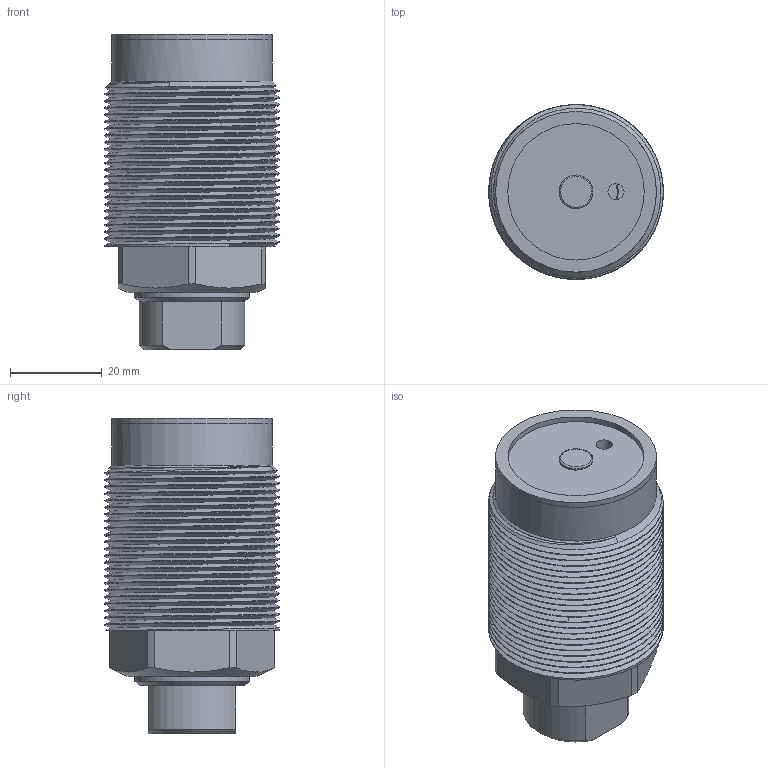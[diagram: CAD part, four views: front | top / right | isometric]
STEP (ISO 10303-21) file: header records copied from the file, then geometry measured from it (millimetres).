
FILE_DESCRIPTION(/* description */ (''),/* implementation_level */ '2;1');
FILE_NAME(/* name */ 'CTC-25B.stp',/* time_stamp */ '2022-04-28T11:08:04+08:00',/* author */ (''),/* organization */ (''),/* preprocessor_version */ 'ST-DEVELOPER v16.7',/* originating_system */ 'SIEMENS PLM Software NX 12.0',/* authorisation */ '');
FILE_SCHEMA (('AUTOMOTIVE_DESIGN { 1 0 10303 214 3 1 1 1 }'));
Length unit declared in the file: millimetre
Products named in the file (1): CTC-25B
Bounding box: 38 x 38 x 68.75 mm (x, y, z)
Volume: 57236.3 mm3; surface area: 34790.7 mm2
Topology: 8 solids, 8 shells, 304 faces, 787 edges, 525 vertices
Faces by surface type: plane 170, extrusion 54, cylinder 48, bspline 20, cone 8, torus 4
Full cylindrical faces by diameter (mm): 3.5 x2, 5 x4, 6.8 x9, 7.321 x2, 10 x2, 18 x2, 18.4 x1, 25 x2, 28 x2, 29.7 x2, 31 x3, 35 x3
Entity records: 18426 total; most frequent: CARTESIAN_POINT 10404, ORIENTED_EDGE 1420, DIRECTION 1101, EDGE_CURVE 710, VECTOR 495, VERTEX_POINT 494, LINE 441, EDGE_LOOP 369
